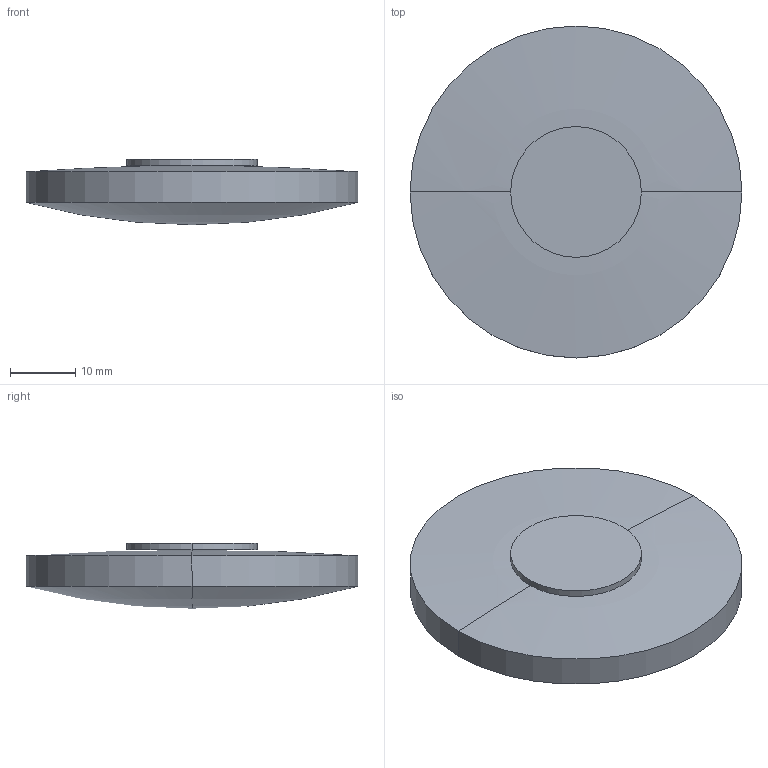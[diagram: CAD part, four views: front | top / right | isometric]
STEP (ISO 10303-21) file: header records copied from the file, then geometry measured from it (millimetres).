
FILE_DESCRIPTION(('STEP AP214'),'1');
FILE_NAME('LLF-51190.STEP','2020-03-09T17:41:29',(' '),(' '),'Spatial InterOp 3D',' ',' ');
FILE_SCHEMA(('AUTOMOTIVE_DESIGN { 1 0 10303 214 1 1 1 1 }'));
Length unit declared in the file: millimetre
Products named in the file (1): 1
Bounding box: 50.8 x 50.8 x 10 mm (x, y, z)
Volume: 14197 mm3; surface area: 5530.5 mm2
Topology: 2 solids, 2 shells, 10 faces, 20 edges, 10 vertices
Faces by surface type: sphere 4, cylinder 4, plane 2
Entity records: 255 total; most frequent: DIRECTION 52, CARTESIAN_POINT 38, ORIENTED_EDGE 32, AXIS2_PLACEMENT_3D 24, EDGE_CURVE 16, CIRCLE 12, ADVANCED_FACE 10, FACE_OUTER_BOUND 10
